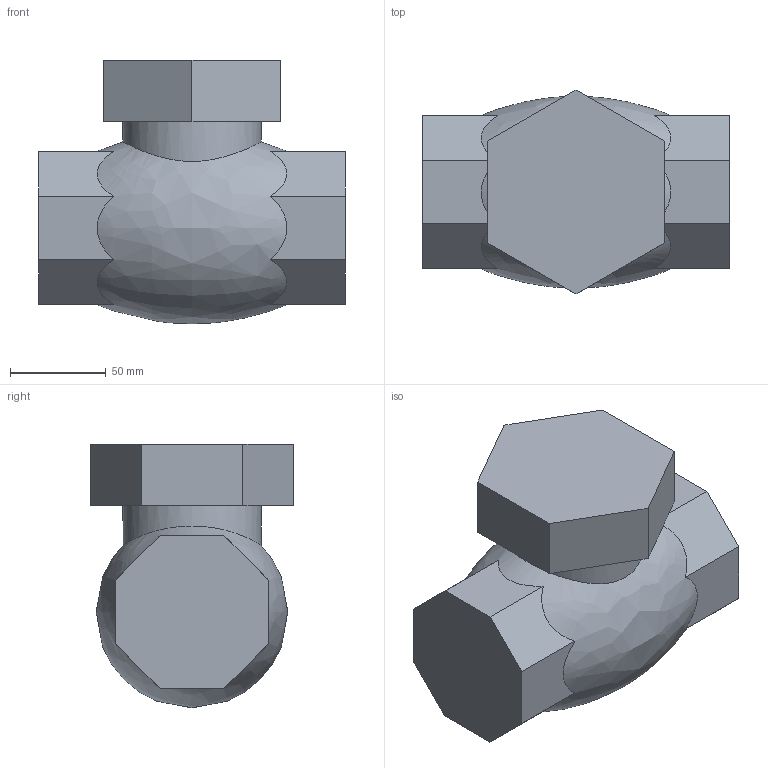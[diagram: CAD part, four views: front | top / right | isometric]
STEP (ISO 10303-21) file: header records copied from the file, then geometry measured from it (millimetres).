
FILE_DESCRIPTION(/* description */ (''),/* implementation_level */ '2;1');
FILE_NAME(/* name */ '50A.step',/* time_stamp */ '2023-12-08T09:32:41+09:00',/* author */ (''),/* organization */ (''),/* preprocessor_version */ 'ST-DEVELOPER v20',/* originating_system */ 'Autodesk Translation Framework v12.14.0.127',/* authorisation */ '');
FILE_SCHEMA (('AUTOMOTIVE_DESIGN { 1 0 10303 214 3 1 1 }'));
Length unit declared in the file: millimetre
Products named in the file (1): 50A
Bounding box: 160 x 106.23 x 137.5 mm (x, y, z)
Volume: 1283000.4 mm3; surface area: 76424.3 mm2
Topology: 1 solids, 1 shells, 28 faces, 74 edges, 49 vertices
Faces by surface type: plane 26, bspline 1, cylinder 1
Full cylindrical faces by diameter (mm): 72 x1
Entity records: 1325 total; most frequent: CARTESIAN_POINT 643, ORIENTED_EDGE 148, DIRECTION 109, EDGE_CURVE 74, LINE 51, VECTOR 51, VERTEX_POINT 49, EDGE_LOOP 29
